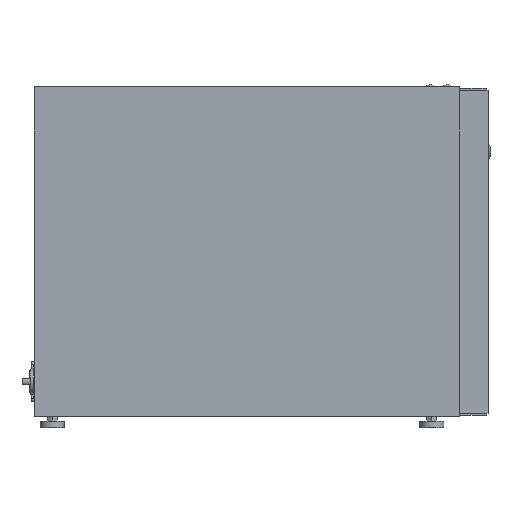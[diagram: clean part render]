
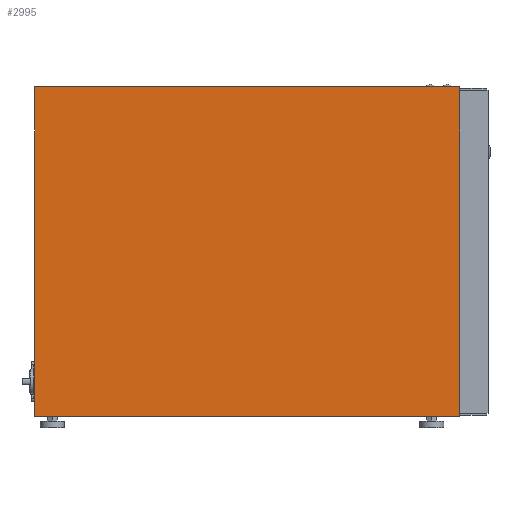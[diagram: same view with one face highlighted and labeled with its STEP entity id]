
A CAD part, left-side view. The second image highlights one B-rep face of the part: STEP entity #2995.
In plain terms, the highlighted planar face has unit normal (-1, 0, 0).
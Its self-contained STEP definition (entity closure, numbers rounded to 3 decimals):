
#336=FACE_OUTER_BOUND('',#535,.T.);
#535=EDGE_LOOP('',(#2594,#2595,#2596,#2597));
#875=LINE('',#4884,#1208);
#876=LINE('',#4886,#1209);
#877=LINE('',#4888,#1210);
#878=LINE('',#4889,#1211);
#1208=VECTOR('',#4040,330.);
#1209=VECTOR('',#4041,425.5);
#1210=VECTOR('',#4042,330.);
#1211=VECTOR('',#4043,425.5);
#1482=VERTEX_POINT('',#4882);
#1483=VERTEX_POINT('',#4883);
#1484=VERTEX_POINT('',#4885);
#1485=VERTEX_POINT('',#4887);
#1879=EDGE_CURVE('',#1482,#1483,#875,.T.);
#1880=EDGE_CURVE('',#1483,#1484,#876,.T.);
#1881=EDGE_CURVE('',#1484,#1485,#877,.T.);
#1882=EDGE_CURVE('',#1485,#1482,#878,.T.);
#2594=ORIENTED_EDGE('',*,*,#1879,.T.);
#2595=ORIENTED_EDGE('',*,*,#1880,.T.);
#2596=ORIENTED_EDGE('',*,*,#1881,.T.);
#2597=ORIENTED_EDGE('',*,*,#1882,.T.);
#2822=PLANE('',#3239);
#2995=ADVANCED_FACE('',(#336),#2822,.T.);
#3239=AXIS2_PLACEMENT_3D('',#4881,#4038,#4039);
#4038=DIRECTION('center_axis',(-1.,0.,0.));
#4039=DIRECTION('ref_axis',(0.,0.,1.));
#4040=DIRECTION('',(0.,0.,1.));
#4041=DIRECTION('',(0.,1.,0.));
#4042=DIRECTION('',(0.,0.,-1.));
#4043=DIRECTION('',(0.,-1.,0.));
#4881=CARTESIAN_POINT('Origin',(-112.5,243.25,176.4));
#4882=CARTESIAN_POINT('',(-112.5,30.5,11.4));
#4883=CARTESIAN_POINT('',(-112.5,30.5,341.4));
#4884=CARTESIAN_POINT('',(-112.5,30.5,341.4));
#4885=CARTESIAN_POINT('',(-112.5,456.,341.4));
#4886=CARTESIAN_POINT('',(-112.5,456.,341.4));
#4887=CARTESIAN_POINT('',(-112.5,456.,11.4));
#4888=CARTESIAN_POINT('',(-112.5,456.,11.4));
#4889=CARTESIAN_POINT('',(-112.5,30.5,11.4));
